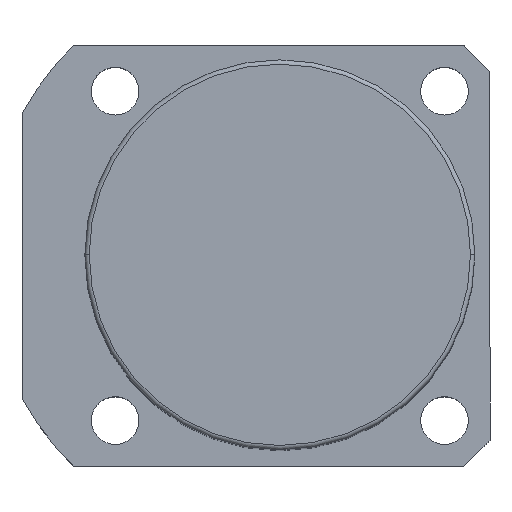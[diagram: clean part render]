
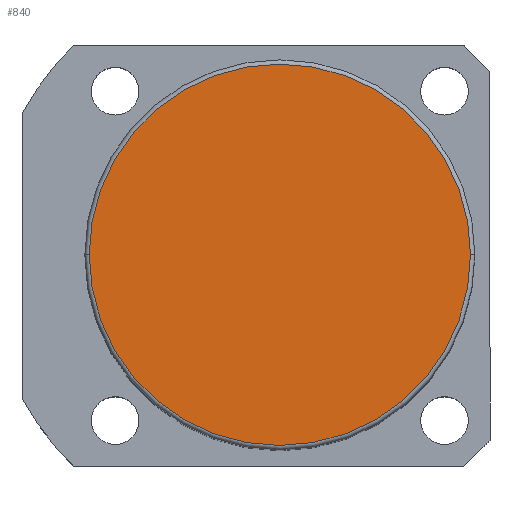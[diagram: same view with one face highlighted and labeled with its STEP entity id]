
A CAD part, top view. The second image highlights one B-rep face of the part: STEP entity #840.
In plain terms, the highlighted planar face has unit normal (0, 0, 1).
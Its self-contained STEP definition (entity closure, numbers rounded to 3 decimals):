
#126 = DIRECTION ( 'NONE',  ( 0., 0., 1. ) ) ;
#237 = EDGE_CURVE ( 'NONE', #1660, #517, #1527, .T. ) ;
#240 = PLANE ( 'NONE',  #394 ) ;
#280 = CARTESIAN_POINT ( 'NONE',  ( 0., 0., 156.5 ) ) ;
#345 = DIRECTION ( 'NONE',  ( 1., 0., 0. ) ) ;
#394 = AXIS2_PLACEMENT_3D ( 'NONE', #1811, #1786, #1256 ) ;
#517 = VERTEX_POINT ( 'NONE', #1443 ) ;
#538 = ORIENTED_EDGE ( 'NONE', *, *, #1701, .T. ) ;
#573 = FACE_OUTER_BOUND ( 'NONE', #1184, .T. ) ;
#618 = CARTESIAN_POINT ( 'NONE',  ( 0., 0., 156.5 ) ) ;
#673 = CIRCLE ( 'NONE', #817, 44. ) ;
#817 = AXIS2_PLACEMENT_3D ( 'NONE', #618, #1617, #345 ) ;
#840 = ADVANCED_FACE ( 'NONE', ( #573 ), #240, .T. ) ;
#863 = ORIENTED_EDGE ( 'NONE', *, *, #237, .T. ) ;
#951 = AXIS2_PLACEMENT_3D ( 'NONE', #280, #126, #1399 ) ;
#1084 = CARTESIAN_POINT ( 'NONE',  ( 44., 0., 156.5 ) ) ;
#1184 = EDGE_LOOP ( 'NONE', ( #863, #538 ) ) ;
#1256 = DIRECTION ( 'NONE',  ( 1., 0., 0. ) ) ;
#1399 = DIRECTION ( 'NONE',  ( 1., 0., 0. ) ) ;
#1443 = CARTESIAN_POINT ( 'NONE',  ( -44., 0., 156.5 ) ) ;
#1527 = CIRCLE ( 'NONE', #951, 44. ) ;
#1617 = DIRECTION ( 'NONE',  ( 0., 0., 1. ) ) ;
#1660 = VERTEX_POINT ( 'NONE', #1084 ) ;
#1701 = EDGE_CURVE ( 'NONE', #517, #1660, #673, .T. ) ;
#1786 = DIRECTION ( 'NONE',  ( 0., 0., 1. ) ) ;
#1811 = CARTESIAN_POINT ( 'NONE',  ( 0., 0., 156.5 ) ) ;
